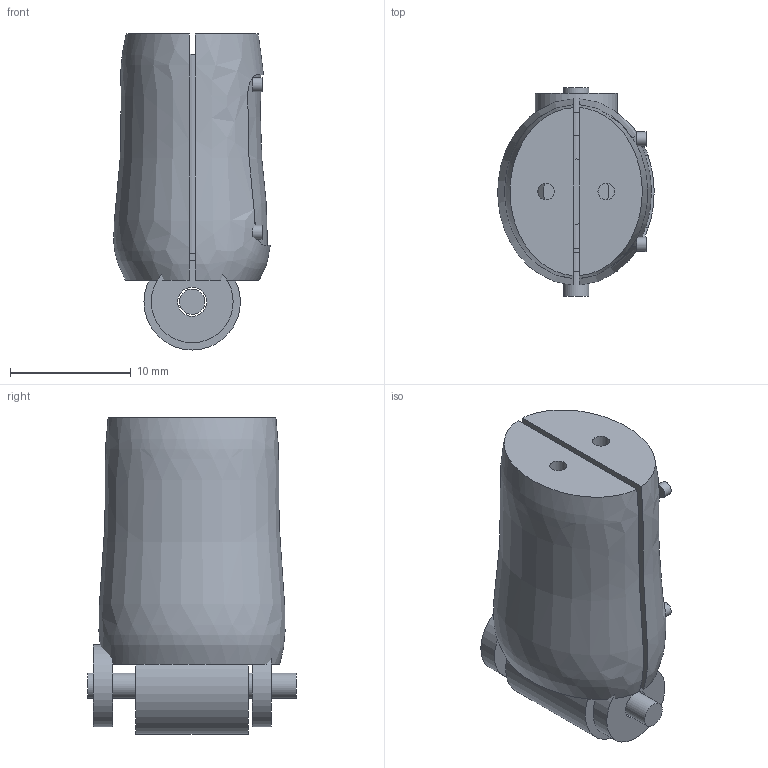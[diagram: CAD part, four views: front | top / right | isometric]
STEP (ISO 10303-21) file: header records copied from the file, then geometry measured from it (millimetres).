
FILE_DESCRIPTION(('FreeCAD Model'),'2;1');
FILE_NAME('Open CASCADE Shape Model','2026-10-05T09:22:58',('Author'),( ''),'Open CASCADE STEP processor 7.8','FreeCAD','Unknown');
FILE_SCHEMA(('AUTOMOTIVE_DESIGN { 1 0 10303 214 1 1 1 1 }'));
Length unit declared in the file: millimetre
Products named in the file (13): Export_ring_intermediate; ring_intermediateDorsalShell; ring_intermediateFlexorShell; ring_intermediateInsetPad; ring_intermediateCore; ring_intermediateHingeBarrel; ring_intermediateCheek-1; ring_intermediateCheek1; ring_intermediatePin; ring_intermediateScrew_-1_0.24; ring_intermediateScrew_-1_0.75; ring_intermediateScrew_1_0.24; ring_intermediateScrew_1_0.75
Assembly tree (12 placements, depth 2):
  Export_ring_intermediate
    ring_intermediateDorsalShell
    ring_intermediateFlexorShell
    ring_intermediateInsetPad
    ring_intermediateCore
    ring_intermediateHingeBarrel
    ring_intermediateCheek-1
    ring_intermediateCheek1
    ring_intermediatePin
    ring_intermediateScrew_-1_0.24
    ring_intermediateScrew_-1_0.75
    ring_intermediateScrew_1_0.24
    ring_intermediateScrew_1_0.75
Bounding box: 12.98 x 17.31 x 26.2 mm (x, y, z)
Volume: 3638.8 mm3; surface area: 3291.7 mm2
Topology: 12 solids, 12 shells, 83 faces, 150 edges, 90 vertices
Faces by surface type: plane 38, cylinder 34, sphere 8, bspline 3
Full cylindrical faces by diameter (mm): 0.464 x4, 1.16 x4, 1.4 x2, 2.1 x1, 2.4 x3, 5.4 x1, 6.8 x2, 8 x1
Entity records: 3134 total; most frequent: CARTESIAN_POINT 1346, DIRECTION 356, ORIENTED_EDGE 288, AXIS2_PLACEMENT_3D 153, EDGE_CURVE 144, FACE_BOUND 98, EDGE_LOOP 98, VERTEX_POINT 90
